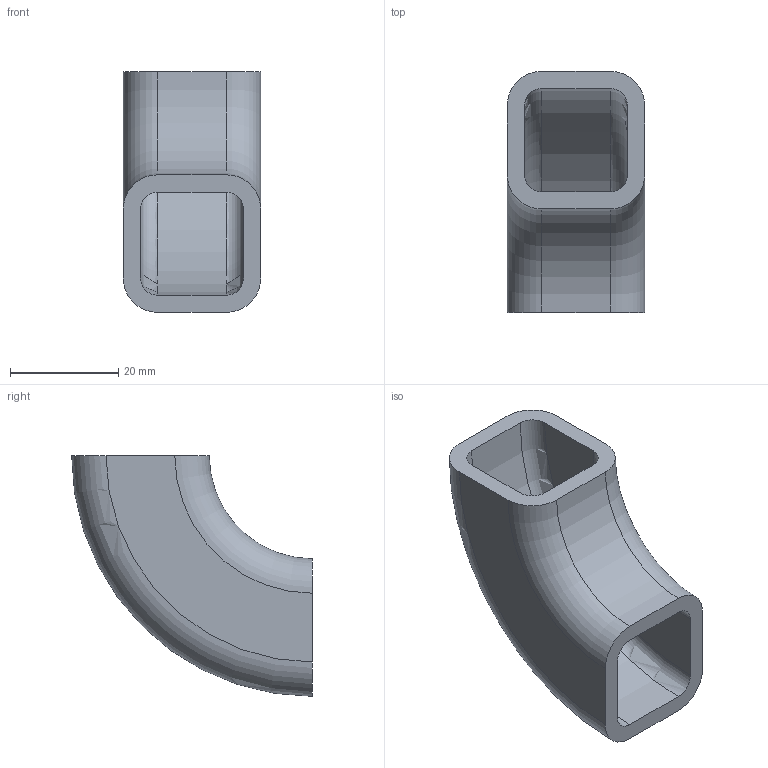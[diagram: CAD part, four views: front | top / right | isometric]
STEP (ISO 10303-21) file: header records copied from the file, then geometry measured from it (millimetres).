
FILE_DESCRIPTION((''),'2;1');
FILE_NAME('C:\Documents and Settings\bamfomg\Desktop\Owens corners\STP FILES\1x1x0.125 - Aluminum.stp','2011-03-21T10:36:54',('bamfomg'),(''),'Autodesk Inventor 2011','Autodesk Inventor 2011','');
FILE_SCHEMA(('AUTOMOTIVE_DESIGN { 1 0 10303 214 1 1 1 1 }'));
Length unit declared in the file: inch
Products named in the file (1): Square Tube Corners
Bounding box: 25.4 x 44.45 x 44.45 mm (x, y, z)
Volume: 12782.3 mm3; surface area: 8564.4 mm2
Topology: 1 solids, 1 shells, 18 faces, 48 edges, 32 vertices
Faces by surface type: torus 8, plane 6, cylinder 4
Entity records: 616 total; most frequent: DIRECTION 118, CARTESIAN_POINT 99, ORIENTED_EDGE 96, AXIS2_PLACEMENT_3D 51, EDGE_CURVE 48, VERTEX_POINT 32, CIRCLE 32, EDGE_LOOP 20
